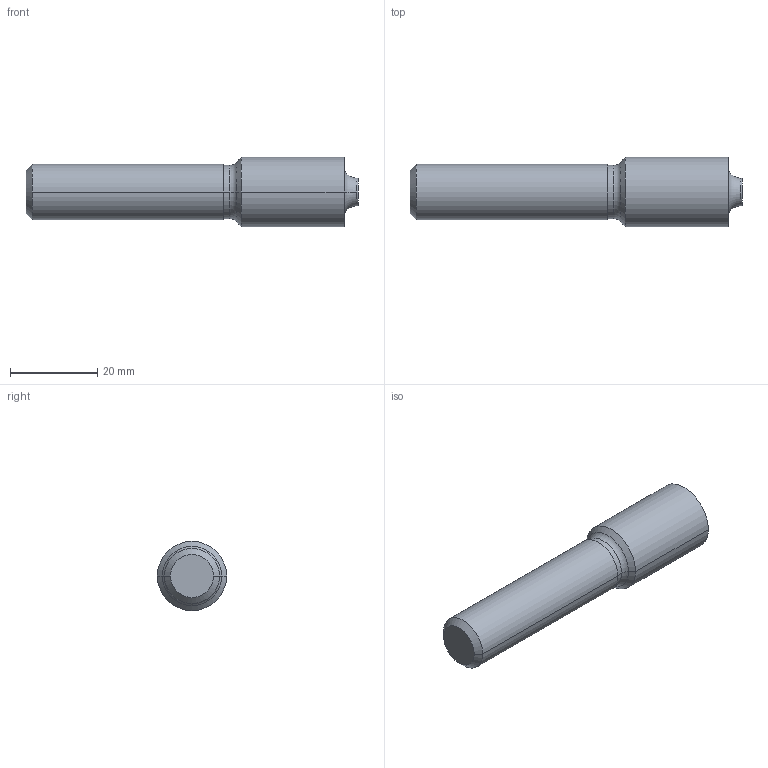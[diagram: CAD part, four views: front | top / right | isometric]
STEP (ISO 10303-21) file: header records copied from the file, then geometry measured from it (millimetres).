
FILE_DESCRIPTION (( 'STEP AP214' ), '1' );
FILE_NAME ('2_new_EQ237008.STEP', '2022-01-28T01:50:35', ( 'USER' ), ( '' ), 'SwSTEP 2.0', 'SolidWorks 2014', '' );
FILE_SCHEMA (( 'AUTOMOTIVE_DESIGN' ));
Length unit declared in the file: millimetre
Products named in the file (1): 2_new_EQ237008
Bounding box: 76.2 x 15.88 x 15.88 mm (x, y, z)
Volume: 11067.2 mm3; surface area: 3528.3 mm2
Topology: 1 solids, 1 shells, 20 faces, 38 edges, 22 vertices
Faces by surface type: cylinder 8, cone 4, torus 4, plane 4
Entity records: 542 total; most frequent: DIRECTION 106, CARTESIAN_POINT 81, ORIENTED_EDGE 76, AXIS2_PLACEMENT_3D 47, EDGE_CURVE 38, CIRCLE 26, VERTEX_POINT 22, EDGE_LOOP 22
